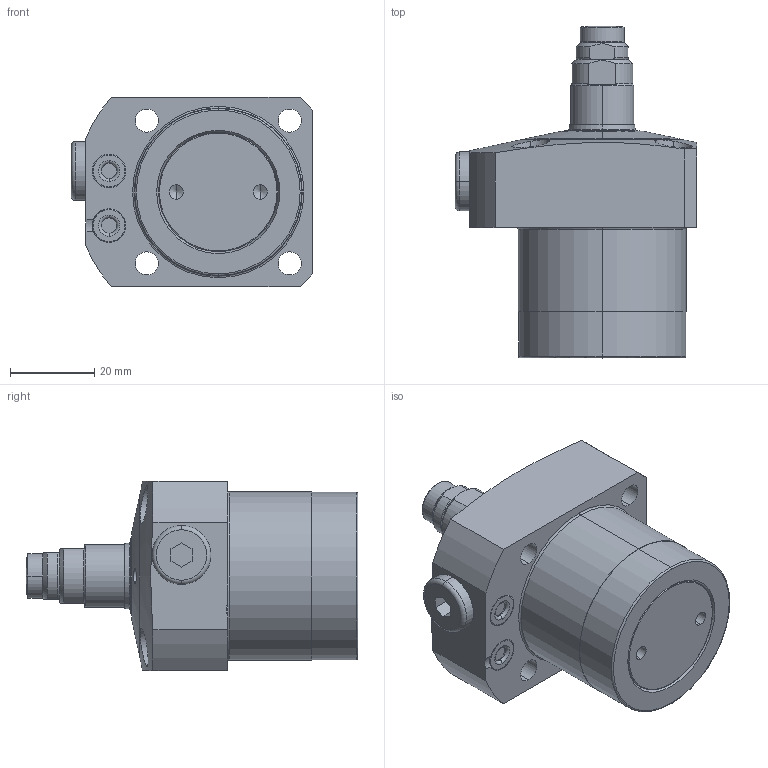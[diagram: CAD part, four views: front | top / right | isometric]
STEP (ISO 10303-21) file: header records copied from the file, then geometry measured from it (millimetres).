
FILE_DESCRIPTION(/* description */ (''),/* implementation_level */ '2;1');
FILE_NAME(/* name */ 'KFSS40-M.stp',/* time_stamp */ '2026-02-06T10:29:20+08:00',/* author */ (''),/* organization */ (''),/* preprocessor_version */ 'ST-DEVELOPER v16.7',/* originating_system */ 'SIEMENS PLM Software NX 12.0',/* authorisation */ '');
FILE_SCHEMA (('AUTOMOTIVE_DESIGN { 1 0 10303 214 3 1 1 1 }'));
Length unit declared in the file: millimetre
Products named in the file (10): XLC-M10SP_pad4499; XLC-M10SP_pin4311; XLC-M10_Oring7352; XLC-M10SP_contactbolt1450; KFSS40-M-04; KFSS40-M-02; KFSS40-M-01; KFSS40-M-05-P5; KFSS40-M-03; LC0403-CxM-E_step
Assembly tree (10 placements, depth 3):
  LC0403-CxM-E_step
    KFSS40-M-05-P5  x2
    KFSS40-M-01
    KFSS40-M-02
    KFSS40-M-03
      XLC-M10SP_contactbolt1450
      XLC-M10_Oring7352
      XLC-M10SP_pin4311
      XLC-M10SP_pad4499
    KFSS40-M-04
Bounding box: 57.5 x 79 x 45 mm (x, y, z)
Volume: 87388.3 mm3; surface area: 18567.3 mm2
Topology: 9 solids, 9 shells, 278 faces, 612 edges, 370 vertices
Faces by surface type: cylinder 94, torus 62, plane 61, cone 55, sphere 6
Entity records: 8226 total; most frequent: CARTESIAN_POINT 1865, DIRECTION 1412, ORIENTED_EDGE 1160, AXIS2_PLACEMENT_3D 609, EDGE_CURVE 580, VERTEX_POINT 356, CIRCLE 332, EDGE_LOOP 312
